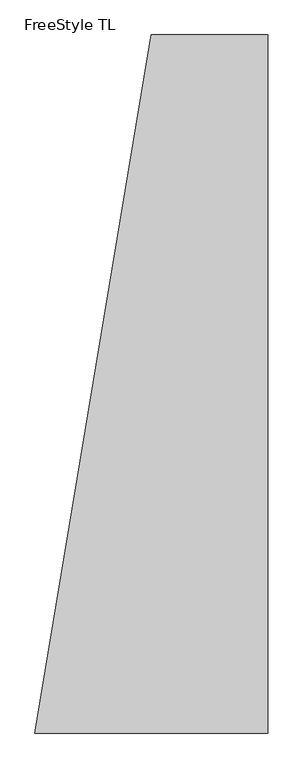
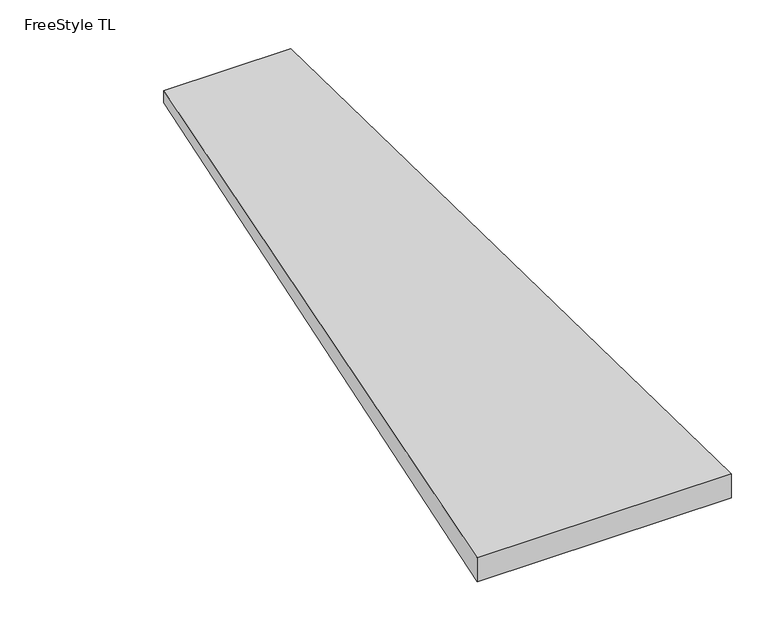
"""IFC4 building model written with IfcOpenShell, lengths in millimetres: proxy geometry, OWA FreeStyle wall absorber : FreeStyle TL."""

import ifcopenshell
import ifcopenshell.guid

model = None  # the IFC model being written
_history = None  # IfcOwnerHistory: only IFC2X3 demands one
_inside = {}  # id of a spatial element -> (the spatial element, [elements in it])
_under = {}  # id of a project, library or spatial element -> (it, [spatial elements below it])
_declared = {}  # id of a project -> (the project, [libraries it declares])
_typed = {}  # id of a type object -> (the type object, [elements of that type])
_made_of = {}  # id of a material, layer set ... -> (it, [elements and type objects made of it])


def new_model(schema):
    """Start an empty IFC model of exactly this schema.

    Asked for "IFC4X3", IfcOpenShell would pick the latest addendum, in which some entities
    have other attributes; the version numbers below select the first issue.
    IFC2X3 requires an IfcOwnerHistory on every rooted entity: one is made here for all.
    """
    global model, _history
    if schema == "IFC4X3":
        model = ifcopenshell.file(schema_version=(4, 3, 0, 0))
    else:
        model = ifcopenshell.file(schema=schema)
    _inside.clear()
    _under.clear()
    _declared.clear()
    _typed.clear()
    _made_of.clear()
    _history = None
    if model.schema == "IFC2X3":
        org = make("IfcOrganization", Name="unknown")
        user = make(
            "IfcPersonAndOrganization",
            ThePerson=make("IfcPerson", FamilyName="unknown"),
            TheOrganization=org,
        )
        app = make(
            "IfcApplication",
            ApplicationDeveloper=org,
            Version="unknown",
            ApplicationFullName="unknown",
            ApplicationIdentifier="unknown",
        )
        _history = make(
            "IfcOwnerHistory",
            OwningUser=user,
            OwningApplication=app,
            ChangeAction="ADDED",
            CreationDate=0,
        )
    return model


def make(cls, **values):
    """One entity of the class cls with the attributes given. An attribute that is None is left unset."""
    return model.create_entity(
        cls, **{name: value for name, value in values.items() if value is not None}
    )


def rooted(cls, **values):
    """An entity with a GlobalId (a new one), such as an element, a storey or a relation."""
    return make(cls, GlobalId=ifcopenshell.guid.new(), OwnerHistory=_history, **values)


def si_unit(unit_type, name, prefix=None):
    """IfcSIUnit, for example si_unit("LENGTHUNIT", "METRE", prefix="MILLI")."""
    return make("IfcSIUnit", UnitType=unit_type, Prefix=prefix, Name=name)


def assignment(units):
    """IfcUnitAssignment: the units of a project."""
    return None if units is None else make("IfcUnitAssignment", Units=units)


def point(xyz):
    """IfcCartesianPoint."""
    return None if xyz is None else make("IfcCartesianPoint", Coordinates=xyz)


def direction(xyz):
    """IfcDirection."""
    return None if xyz is None else make("IfcDirection", DirectionRatios=xyz)


def frame(location, z_axis=None, x_axis=None):
    """IfcAxis2Placement3D, a coordinate frame: its origin and axes. An axis left out is left unset."""
    return make(
        "IfcAxis2Placement3D",
        Location=point(location),
        Axis=direction(z_axis),
        RefDirection=direction(x_axis),
    )


def origin():
    """The frame at (0, 0, 0) with its axes left unset."""
    return frame((0.0, 0.0, 0.0))


def place(relative_to, where):
    """IfcLocalPlacement: puts the frame where relative to a parent placement (None: the world)."""
    return make(
        "IfcLocalPlacement", PlacementRelTo=relative_to, RelativePlacement=where
    )


def context(
    kind, dimensions, precision=None, world=None, true_north=None, identifier=None
):
    """IfcGeometricRepresentationContext, for example the 3D "Model" context."""
    return make(
        "IfcGeometricRepresentationContext",
        ContextIdentifier=identifier,
        ContextType=kind,
        CoordinateSpaceDimension=dimensions,
        Precision=precision,
        WorldCoordinateSystem=world,
        TrueNorth=true_north,
    )


def project(units=None, contexts=None):
    """IfcProject with its units and contexts."""
    return rooted(
        "IfcProject",
        Name="project",
        RepresentationContexts=contexts,
        UnitsInContext=assignment(units),
    )


def spatial(cls, under=None, at=None, **own):
    """A site, building, storey or space (cls), placed at a placement, below another one or the project."""
    s = rooted(cls, ObjectPlacement=at, **own)
    if under is not None:
        _under.setdefault(under.id(), (under, []))[1].append(s)
    return s


def faces_of(points, faces, orient=None, outer=None):
    """IfcFace entities. A face is a list of loops; a loop is a list of indices into points, from 0.

    orient and outer hold one flag for each loop. By default every Orientation is true, the
    first loop of a face is its IfcFaceOuterBound and the others are IfcFaceBound.
    """
    made = []
    for i, loops in enumerate(faces):
        bounds = []
        for j, loop in enumerate(loops):
            is_outer = j == 0 if outer is None else outer[i][j]
            bounds.append(
                make(
                    "IfcFaceOuterBound" if is_outer else "IfcFaceBound",
                    Bound=make("IfcPolyLoop", Polygon=[points[k] for k in loop]),
                    Orientation=True if orient is None else orient[i][j],
                )
            )
        made.append(make("IfcFace", Bounds=bounds))
    return made


def faceted_brep(points, faces, orient=None, outer=None, voids=None):
    """IfcFacetedBrep: a solid bounded by flat faces; with voids (closed shells), ...WithVoids."""
    shared = [point(p) for p in points]
    hull = make("IfcClosedShell", CfsFaces=faces_of(shared, faces, orient, outer))
    if voids is None:
        return make("IfcFacetedBrep", Outer=hull)
    return make(
        "IfcFacetedBrepWithVoids",
        Outer=hull,
        Voids=[
            make(cls, CfsFaces=faces_of(shared, fs, o, b)) for cls, fs, o, b in voids
        ],
    )


def shape(context_of_items, identifier, shape_type, items):
    """IfcShapeRepresentation: the items that make up one representation, for example the "Body"."""
    return make(
        "IfcShapeRepresentation",
        ContextOfItems=context_of_items,
        RepresentationIdentifier=identifier,
        RepresentationType=shape_type,
        Items=items,
    )


def source(mapping_origin, context_of_items, identifier, shape_type, items):
    """IfcRepresentationMap: a shape defined once, which mapped items show again and again."""
    return make(
        "IfcRepresentationMap",
        MappingOrigin=mapping_origin,
        MappedRepresentation=shape(context_of_items, identifier, shape_type, items),
    )


def transform(
    local_origin,
    x_axis=None,
    y_axis=None,
    z_axis=None,
    scale=None,
    scale2=None,
    scale3=None,
    uniform=True,
):
    """IfcCartesianTransformationOperator3D, or its non-uniform kind. x_axis, y_axis, z_axis: its Axis1, 2, 3."""
    if uniform:
        return make(
            "IfcCartesianTransformationOperator3D",
            Axis1=direction(x_axis),
            Axis2=direction(y_axis),
            LocalOrigin=point(local_origin),
            Scale=scale,
            Axis3=direction(z_axis),
        )
    return make(
        "IfcCartesianTransformationOperator3DnonUniform",
        Axis1=direction(x_axis),
        Axis2=direction(y_axis),
        LocalOrigin=point(local_origin),
        Scale=scale,
        Axis3=direction(z_axis),
        Scale2=scale2,
        Scale3=scale3,
    )


def mapped(mapping_source, mapping_target):
    """IfcMappedItem: shows the shape of a source again, moved by a transform."""
    return make(
        "IfcMappedItem", MappingSource=mapping_source, MappingTarget=mapping_target
    )


def made_of(thing, what):
    """Note that an element or type object is made of a material, layer set ...; save() writes the relation."""
    if what is not None:
        _made_of.setdefault(what.id(), (what, []))[1].append(thing)
    return thing


def element(
    cls,
    number,
    at=None,
    inside=None,
    cuts=None,
    type_object=None,
    material=None,
    context=None,
    identifier="Body",
    shape_type=None,
    held_by="IfcProductDefinitionShape",
    body=None,
    shapes=None,
    **own,
):
    """One element of the class cls, such as IfcWall. Its Tag is "e" and its number.

    at: its placement. inside: the storey or other place that contains it. cuts: it is an
    opening in that element (IfcRelVoidsElement). A single representation is given by context,
    identifier, shape_type and body (its items); several are given by shapes. held_by: the class
    of the entity that holds the representations. save() writes the other relations.
    """
    e = rooted(cls, Tag="e%d" % number, ObjectPlacement=at, **own)
    if body is not None:
        shapes = [shape(context, identifier, shape_type, body)]
    if shapes is not None:
        e.Representation = make(held_by, Representations=shapes)
    if inside is not None:
        _inside.setdefault(inside.id(), (inside, []))[1].append(e)
    if cuts is not None:
        rooted(
            "IfcRelVoidsElement", RelatingBuildingElement=cuts, RelatedOpeningElement=e
        )
    if type_object is not None:
        _typed.setdefault(type_object.id(), (type_object, []))[1].append(e)
    return made_of(e, material)


def aggregate(whole, parts):
    """IfcRelAggregates: a whole, such as a stair, and the parts it consists of."""
    return rooted("IfcRelAggregates", RelatingObject=whole, RelatedObjects=parts)


def save(model, path):
    """Write the relations noted so far, then the file.

    IfcRelAggregates (storeys below a building ...), IfcRelContainedInSpatialStructure (elements
    in a storey), IfcRelDefinesByType, IfcRelAssociatesMaterial and IfcRelDeclares: one each for
    every whole, place, type object, material and project.
    """
    for whole, parts in _under.values():
        aggregate(whole, parts)
    for where, things in _inside.values():
        rooted(
            "IfcRelContainedInSpatialStructure",
            RelatedElements=things,
            RelatingStructure=where,
        )
    for kind, things in _typed.values():
        rooted("IfcRelDefinesByType", RelatedObjects=things, RelatingType=kind)
    for what, things in _made_of.values():
        rooted("IfcRelAssociatesMaterial", RelatedObjects=things, RelatingMaterial=what)
    for by, libraries in _declared.values():
        rooted("IfcRelDeclares", RelatingContext=by, RelatedDefinitions=libraries)
    model.write(path)


def freestyle_tl_5bec2b6c(model_context):
    return source(origin(), model_context, "Body", "Brep", [
        faceted_brep([(-333.5, -600.0, 40.0), (-733.5, -600.0, 40.0), (-733.5, -600.0, 0.0), (-333.5, -600.0, 0.0), (-333.5, 600.0, 20.0), (-333.5, 600.0, 0.0), (-533.5, 600.0, 0.0), (-533.5, 600.0, 20.0)], [[[0, 1, 2, 3]], [[4, 5, 6, 7]], [[4, 7, 1, 0]], [[7, 6, 2, 1]], [[6, 5, 3, 2]], [[5, 4, 0, 3]]]),
    ])


if __name__ == "__main__":
    model = new_model("IFC4")
    model_context = context("Model", 3, world=origin())
    ifc_project = project(units=[si_unit("LENGTHUNIT", "METRE", prefix="MILLI")], contexts=[model_context])
    site = spatial("IfcSite", under=ifc_project)
    building = spatial("IfcBuilding", under=site)
    placement = place(None, origin())
    freestyle_tl_shape = freestyle_tl_5bec2b6c(model_context)
    element("IfcBuildingElementProxy", 1, Name="OWA FreeStyle wall absorber : FreeStyle TL", ObjectType="OWA FreeStyle wall absorber : FreeStyle TL", at=placement, inside=building, context=model_context, shape_type="MappedRepresentation", body=[
        mapped(freestyle_tl_shape, transform((0.0, 0.0, 0.0), x_axis=(1.0, 0.0, 0.0), y_axis=(0.0, 1.0, 0.0), z_axis=(0.0, 0.0, 1.0))),
    ])
    save(model, "model.ifc")
